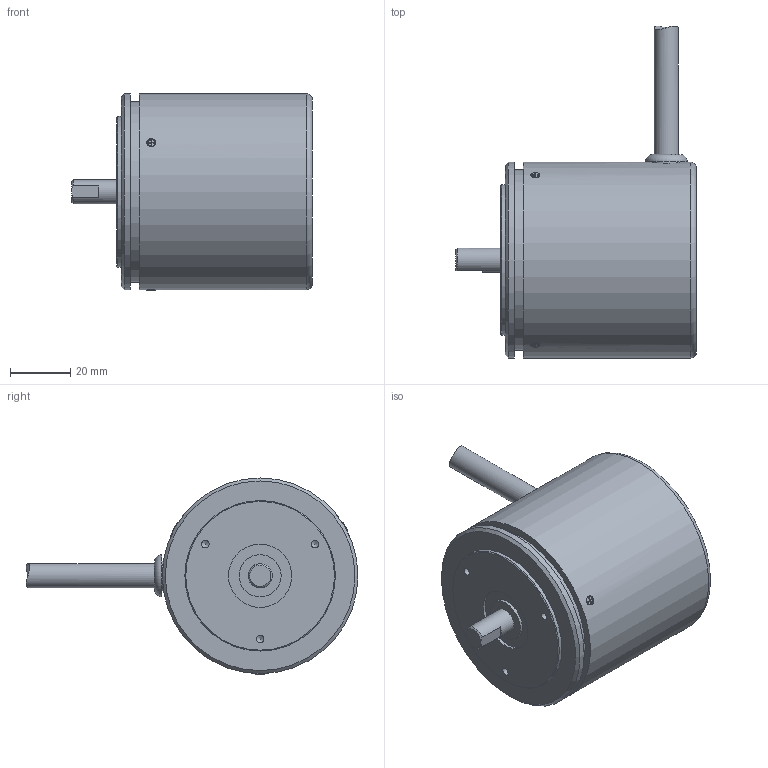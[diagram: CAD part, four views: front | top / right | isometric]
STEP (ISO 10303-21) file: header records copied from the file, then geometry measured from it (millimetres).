
FILE_DESCRIPTION(('STEP AP242'),'1');
FILE_NAME('L4E01B MXS-42-B.stp','2025-08-26T01:00:20',(' '),(' '),'Spatial InterOp 3D',' ',' ');
FILE_SCHEMA(('AP242_MANAGED_MODEL_BASED_3D_ENGINEERING_MIM_LF {1 0 10303 442 1 1 4}'));
Length unit declared in the file: millimetre
Products named in the file (1): L4E01C MXS-42-B
Bounding box: 80 x 110.26 x 65.15 mm (x, y, z)
Volume: 214790.5 mm3; surface area: 22426.5 mm2
Topology: 1 solids, 6 shells, 102 faces, 232 edges, 152 vertices
Faces by surface type: plane 53, cylinder 33, cone 14, torus 2
Full cylindrical faces by diameter (mm): 1.6 x2, 2 x3, 2.5 x9, 3 x3, 8 x2, 10 x1, 14 x1, 21 x1, 50 x1, 60 x1, 65 x2
Entity records: 3877 total; most frequent: CARTESIAN_POINT 900, DIRECTION 431, ORIENTED_EDGE 344, EDGE_CURVE 172, AXIS2_PLACEMENT_3D 169, EDGE_LOOP 159, VERTEX_POINT 138, FACE_OUTER_BOUND 130
